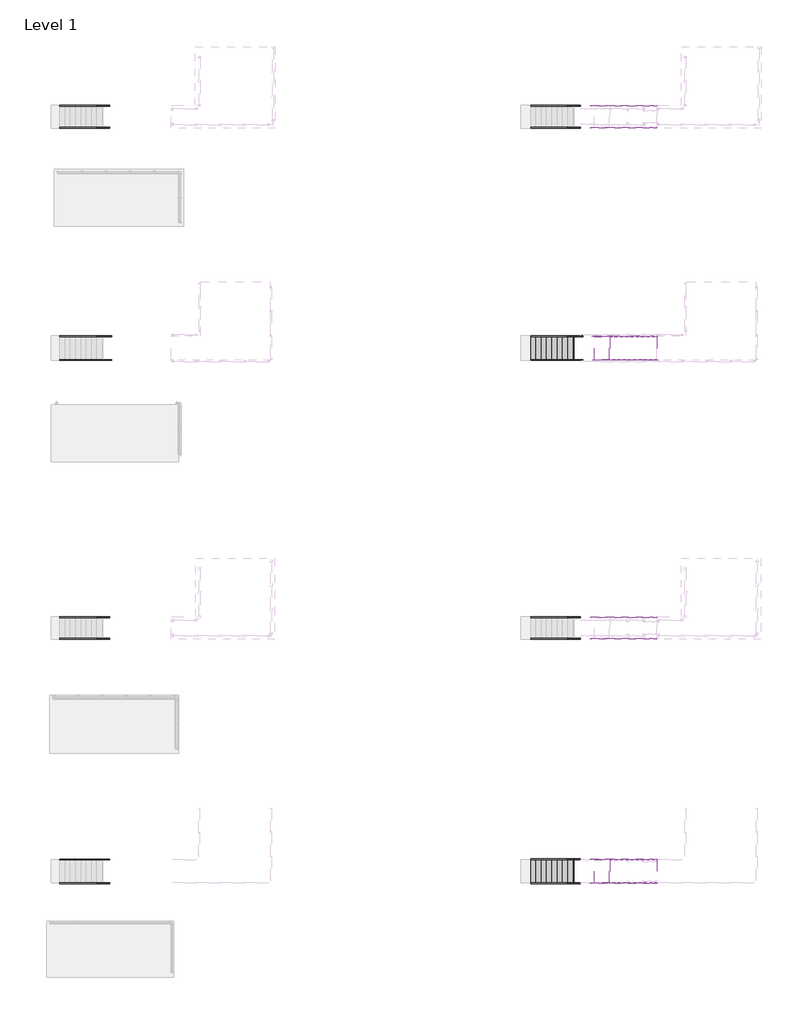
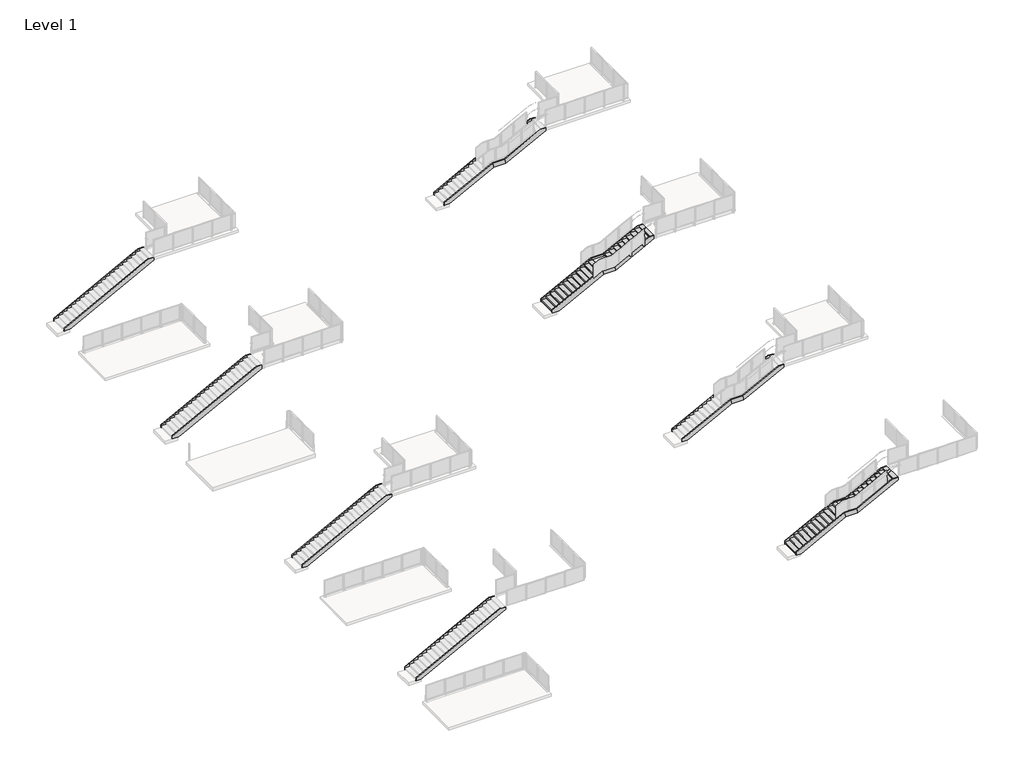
# One storey, part 37 of 37: 32 members, 4 stair flights, 2 slabs.
"""IFC4 building model written with IfcOpenShell, lengths in millimetres."""

from ifc_helpers import new_model, si_unit, frame, origin, place, context, project, spatial, polyline, outline, extrude, transform, mapped, element, save
from components import non_monolithic_landing_e9fda9be, non_monolithic_landing_5e3153e8, stair_flight_2a23c924, stair_flight_99da53d7, stair_flight_32776d90, stair_flight_a6610861

model = new_model("IFC4")

# Units and contexts
model_context = context("Model", 3, world=origin())
ifc_project = project(units=[si_unit("LENGTHUNIT", "METRE", prefix="MILLI")], contexts=[model_context])

# Site, building, storey
site = spatial("IfcSite", under=ifc_project)
building = spatial("IfcBuilding", under=site)
storey = spatial("IfcBuildingStorey", under=building, Name="Level 1", Elevation=0.0)

# Members
placement = place(None, origin())
element("IfcMember", 1, ObjectType="Stringer - Paint - 2\" Width", at=placement, inside=storey, context=model_context, shape_type="SweptSolid", body=[
    extrude(outline(polyline([(190.3114112, -38944.2813244), (0.0, -38944.2813244), (0.0, -38621.8954208), (2880.5268033, -33076.8813244), (3048.0, -33076.8813244), (3048.0, -33443.230791), (190.3114112, -38944.2813244)])), frame((0.0, 9475.3937722, 0.0), z_axis=(0.0, 1.0, 0.0), x_axis=(0.0, 0.0, 1.0)), (0.0, 0.0, 1.0), 50.8),
])
element("IfcMember", 2, ObjectType="Stringer - Paint - 2\" Width", at=placement, inside=storey, context=model_context, shape_type="SweptSolid", body=[
    extrude(outline(polyline([(190.3114112, -38944.2813244), (0.0, -38944.2813244), (0.0, -38621.8954208), (2880.5268033, -33076.8813244), (3048.0, -33076.8813244), (3048.0, -33443.230791), (190.3114112, -38944.2813244)])), frame((0.0, 8326.1937722, 0.0), z_axis=(0.0, 1.0, 0.0), x_axis=(0.0, 0.0, 1.0)), (0.0, 0.0, 1.0), 50.8),
])
element("IfcMember", 3, ObjectType="Stringer - Paint - 2\" Width", at=placement, inside=storey, context=model_context, shape_type="SweptSolid", body=[
    extrude(outline(polyline([(190.3114112, -14128.4813244), (0.0, -14128.4813244), (0.0, -13806.0954208), (1513.1142857, -10893.3504208), (1830.6142857, -10970.898291), (190.3114112, -14128.4813244)])), frame((0.0, 9475.3913722, 0.0), z_axis=(0.0, 1.0, 0.0), x_axis=(0.0, 0.0, 1.0)), (0.0, 0.0, 1.0), 50.8),
])
element("IfcMember", 4, ObjectType="Stringer - Paint - 2\" Width", at=placement, inside=storey, context=model_context, shape_type="SweptSolid", body=[
    extrude(outline(polyline([(190.3114112, -14128.4813244), (0.0, -14128.4813244), (0.0, -13806.0954208), (1513.1142857, -10893.3504208), (1830.6142857, -10970.898291), (190.3114112, -14128.4813244)])), frame((0.0, 8326.1937722, 0.0), z_axis=(0.0, 1.0, 0.0), x_axis=(0.0, 0.0, 1.0)), (0.0, 0.0, 1.0), 50.8),
])
element("IfcMember", 5, ObjectType="Stringer - Paint - 2\" Width", at=placement, inside=storey, context=model_context, shape_type="SweptSolid", body=[
    extrude(outline(polyline([(1830.6142857, -10183.498291), (1513.1142857, -10105.9504208), (2880.5268033, -7473.6813244), (3048.0, -7473.6813244), (3048.0, -7840.030791), (1830.6142857, -10183.498291)])), frame((0.0, 9475.3913722, 0.0), z_axis=(0.0, 1.0, 0.0), x_axis=(0.0, 0.0, 1.0)), (0.0, 0.0, 1.0), 50.8),
])
element("IfcMember", 6, ObjectType="Stringer - Paint - 2\" Width", at=placement, inside=storey, context=model_context, shape_type="SweptSolid", body=[
    extrude(outline(polyline([(1830.6142857, -10183.498291), (1513.1142857, -10105.9504208), (2880.5268033, -7473.6813244), (3048.0, -7473.6813244), (3048.0, -7840.030791), (1830.6142857, -10183.498291)])), frame((0.0, 8326.1937722, 0.0), z_axis=(0.0, 1.0, 0.0), x_axis=(0.0, 0.0, 1.0)), (0.0, 0.0, 1.0), 50.8),
])
element("IfcMember", 7, ObjectType="Stringer - Paint - 2\" Width", at=placement, inside=storey, context=model_context, shape_type="SweptSolid", body=[
    extrude(outline(polyline([(1513.1142857, -10105.9504208), (1830.6142857, -10183.498291), (1830.6142857, -10970.898291), (1513.1142857, -10893.3504208), (1513.1142857, -10105.9504208)])), frame((0.0, 9475.3913722, 0.0), z_axis=(0.0, 1.0, 0.0), x_axis=(0.0, 0.0, 1.0)), (0.0, 0.0, 1.0), 50.8),
])
element("IfcMember", 8, ObjectType="Stringer - Paint - 2\" Width", at=placement, inside=storey, context=model_context, shape_type="SweptSolid", body=[
    extrude(outline(polyline([(1830.6142857, -10970.898291), (1513.1142857, -10893.3504208), (1513.1142857, -10105.9504208), (1830.6142857, -10183.498291), (1830.6142857, -10970.898291)])), frame((0.0, 8326.1937722, 0.0), z_axis=(0.0, 1.0, 0.0), x_axis=(0.0, 0.0, 1.0)), (0.0, 0.0, 1.0), 50.8),
])
element("IfcMember", 9, ObjectType="Stringer - Paint - 2\" Width", at=placement, inside=storey, context=model_context, shape_type="SweptSolid", body=[
    extrude(outline(polyline([(190.3114112, -38944.2813244), (0.0, -38944.2813244), (0.0, -38511.6977615), (2823.281266, -33076.8813244), (3048.0, -33076.8813244), (3048.0, -33443.230791), (190.3114112, -38944.2813244)])), frame((0.0, -2662.1362112, 0.0), z_axis=(0.0, 1.0, 0.0), x_axis=(0.0, 0.0, 1.0)), (0.0, 0.0, 1.0), 50.8),
])
element("IfcMember", 10, ObjectType="Stringer - Paint - 2\" Width", at=placement, inside=storey, context=model_context, shape_type="SweptSolid", body=[
    extrude(outline(polyline([(190.3114112, -38944.2813244), (0.0, -38944.2813244), (0.0, -38511.6977615), (2823.281266, -33076.8813244), (3048.0, -33076.8813244), (3048.0, -33443.230791), (190.3114112, -38944.2813244)])), frame((0.0, -3912.9362112, 0.0), z_axis=(0.0, 1.0, 0.0), x_axis=(0.0, 0.0, 1.0)), (0.0, 0.0, 1.0), 50.8),
])
element("IfcMember", 11, ObjectType="Stringer - Paint - 2\" Width", at=placement, inside=storey, context=model_context, shape_type="SweptSolid", body=[
    extrude(outline(polyline([(190.3114112, -38944.2813244), (0.0, -38944.2813244), (0.0, -38621.8954208), (2880.5268033, -33076.8813244), (3048.0, -33076.8813244), (3048.0, -33443.230791), (190.3114112, -38944.2813244)])), frame((0.0, -17453.1554387, 0.0), z_axis=(0.0, 1.0, 0.0), x_axis=(0.0, 0.0, 1.0)), (0.0, 0.0, 1.0), 50.8),
])
element("IfcMember", 12, ObjectType="Stringer - Paint - 2\" Width", at=placement, inside=storey, context=model_context, shape_type="SweptSolid", body=[
    extrude(outline(polyline([(190.3114112, -38944.2813244), (0.0, -38944.2813244), (0.0, -38621.8954208), (2880.5268033, -33076.8813244), (3048.0, -33076.8813244), (3048.0, -33443.230791), (190.3114112, -38944.2813244)])), frame((0.0, -18602.3554387, 0.0), z_axis=(0.0, 1.0, 0.0), x_axis=(0.0, 0.0, 1.0)), (0.0, 0.0, 1.0), 50.8),
])
element("IfcMember", 13, ObjectType="Stringer - Paint - 2\" Width", at=placement, inside=storey, context=model_context, shape_type="SweptSolid", body=[
    extrude(outline(polyline([(190.3114112, -38944.2813244), (0.0, -38944.2813244), (0.0, -38621.8954208), (2880.5268033, -33076.8813244), (3048.0, -33076.8813244), (3048.0, -33443.230791), (190.3114112, -38944.2813244)])), frame((0.0, -30222.1775116, 0.0), z_axis=(0.0, 1.0, 0.0), x_axis=(0.0, 0.0, 1.0)), (0.0, 0.0, 1.0), 50.8),
])
element("IfcMember", 14, ObjectType="Stringer - Paint - 2\" Width", at=placement, inside=storey, context=model_context, shape_type="SweptSolid", body=[
    extrude(outline(polyline([(190.3114112, -38944.2813244), (0.0, -38944.2813244), (0.0, -38621.8954208), (2880.5268033, -33076.8813244), (3048.0, -33076.8813244), (3048.0, -33443.230791), (190.3114112, -38944.2813244)])), frame((0.0, -31472.9775116, 0.0), z_axis=(0.0, 1.0, 0.0), x_axis=(0.0, 0.0, 1.0)), (0.0, 0.0, 1.0), 50.8),
])
element("IfcMember", 15, ObjectType="Stringer - Paint - 2\" Width", at=placement, inside=storey, context=model_context, shape_type="SweptSolid", body=[
    extrude(outline(polyline([(190.3114112, -14128.4813244), (0.0, -14128.4813244), (0.0, -13806.0954208), (1513.1142857, -10893.3504208), (1830.6142857, -10970.898291), (190.3114112, -14128.4813244)])), frame((0.0, -17453.1578387, 0.0), z_axis=(0.0, 1.0, 0.0), x_axis=(0.0, 0.0, 1.0)), (0.0, 0.0, 1.0), 50.8),
])
element("IfcMember", 16, ObjectType="Stringer - Paint - 2\" Width", at=placement, inside=storey, context=model_context, shape_type="SweptSolid", body=[
    extrude(outline(polyline([(190.3114112, -14128.4813244), (0.0, -14128.4813244), (0.0, -13806.0954208), (1513.1142857, -10893.3504208), (1830.6142857, -10970.898291), (190.3114112, -14128.4813244)])), frame((0.0, -18602.3554387, 0.0), z_axis=(0.0, 1.0, 0.0), x_axis=(0.0, 0.0, 1.0)), (0.0, 0.0, 1.0), 50.8),
])
element("IfcMember", 17, ObjectType="Stringer - Paint - 2\" Width", at=placement, inside=storey, context=model_context, shape_type="SweptSolid", body=[
    extrude(outline(polyline([(1830.6142857, -10183.498291), (1513.1142857, -10105.9504208), (2880.5268033, -7473.6813244), (3048.0, -7473.6813244), (3048.0, -7840.030791), (1830.6142857, -10183.498291)])), frame((0.0, -17453.1578387, 0.0), z_axis=(0.0, 1.0, 0.0), x_axis=(0.0, 0.0, 1.0)), (0.0, 0.0, 1.0), 50.8),
])
element("IfcMember", 18, ObjectType="Stringer - Paint - 2\" Width", at=placement, inside=storey, context=model_context, shape_type="SweptSolid", body=[
    extrude(outline(polyline([(1830.6142857, -10183.498291), (1513.1142857, -10105.9504208), (2880.5268033, -7473.6813244), (3048.0, -7473.6813244), (3048.0, -7840.030791), (1830.6142857, -10183.498291)])), frame((0.0, -18602.3554387, 0.0), z_axis=(0.0, 1.0, 0.0), x_axis=(0.0, 0.0, 1.0)), (0.0, 0.0, 1.0), 50.8),
])
element("IfcMember", 19, ObjectType="Stringer - Paint - 2\" Width", at=placement, inside=storey, context=model_context, shape_type="SweptSolid", body=[
    extrude(outline(polyline([(1513.1142857, -10105.9504208), (1830.6142857, -10183.498291), (1830.6142857, -10970.898291), (1513.1142857, -10893.3504208), (1513.1142857, -10105.9504208)])), frame((0.0, -17453.1578387, 0.0), z_axis=(0.0, 1.0, 0.0), x_axis=(0.0, 0.0, 1.0)), (0.0, 0.0, 1.0), 50.8),
])
element("IfcMember", 20, ObjectType="Stringer - Paint - 2\" Width", at=placement, inside=storey, context=model_context, shape_type="SweptSolid", body=[
    extrude(outline(polyline([(1830.6142857, -10970.898291), (1513.1142857, -10893.3504208), (1513.1142857, -10105.9504208), (1830.6142857, -10183.498291), (1830.6142857, -10970.898291)])), frame((0.0, -18602.3554387, 0.0), z_axis=(0.0, 1.0, 0.0), x_axis=(0.0, 0.0, 1.0)), (0.0, 0.0, 1.0), 50.8),
])
element("IfcMember", 21, ObjectType="Stringer - Paint - 2\" Width", at=placement, inside=storey, context=model_context, shape_type="SweptSolid", body=[
    extrude(outline(polyline([(190.3114112, -14128.4813244), (0.0, -14128.4813244), (0.0, -13806.0954208), (1513.1142857, -10893.3504208), (1830.6142857, -10970.898291), (190.3114112, -14128.4813244)])), frame((0.0, -30217.3006776, 0.0), z_axis=(0.0, 1.0, 0.0), x_axis=(0.0, 0.0, 1.0)), (0.0, 0.0, 1.0), 50.8),
])
element("IfcMember", 22, ObjectType="Stringer - Paint - 2\" Width", at=placement, inside=storey, context=model_context, shape_type="SweptSolid", body=[
    extrude(outline(polyline([(190.3114112, -14128.4813244), (0.0, -14128.4813244), (0.0, -13806.0954208), (1513.1142857, -10893.3504208), (1830.6142857, -10970.898291), (190.3114112, -14128.4813244)])), frame((0.0, -31473.9861116, 0.0), z_axis=(0.0, 1.0, 0.0), x_axis=(0.0, 0.0, 1.0)), (0.0, 0.0, 1.0), 50.8),
])
element("IfcMember", 23, ObjectType="Stringer - Paint - 2\" Width", at=placement, inside=storey, context=model_context, shape_type="SweptSolid", body=[
    extrude(outline(polyline([(1830.6142857, -10183.498291), (1513.1142857, -10105.9504208), (2880.5268033, -7473.6813244), (3048.0, -7473.6813244), (3048.0, -7840.030791), (1830.6142857, -10183.498291)])), frame((0.0, -30217.3006776, 0.0), z_axis=(0.0, 1.0, 0.0), x_axis=(0.0, 0.0, 1.0)), (0.0, 0.0, 1.0), 50.8),
])
element("IfcMember", 24, ObjectType="Stringer - Paint - 2\" Width", at=placement, inside=storey, context=model_context, shape_type="SweptSolid", body=[
    extrude(outline(polyline([(1830.6142857, -10183.498291), (1513.1142857, -10105.9504208), (2880.5268033, -7473.6813244), (3048.0, -7473.6813244), (3048.0, -7840.030791), (1830.6142857, -10183.498291)])), frame((0.0, -31473.9861116, 0.0), z_axis=(0.0, 1.0, 0.0), x_axis=(0.0, 0.0, 1.0)), (0.0, 0.0, 1.0), 50.8),
])
element("IfcMember", 25, ObjectType="Stringer - Paint - 2\" Width", at=placement, inside=storey, context=model_context, shape_type="SweptSolid", body=[
    extrude(outline(polyline([(1513.1142857, -10105.9504208), (1830.6142857, -10183.498291), (1830.6142857, -10970.898291), (1513.1142857, -10893.3504208), (1513.1142857, -10105.9504208)])), frame((0.0, -30217.3006776, 0.0), z_axis=(0.0, 1.0, 0.0), x_axis=(0.0, 0.0, 1.0)), (0.0, 0.0, 1.0), 50.8),
])
element("IfcMember", 26, ObjectType="Stringer - Paint - 2\" Width", at=placement, inside=storey, context=model_context, shape_type="SweptSolid", body=[
    extrude(outline(polyline([(1830.6142857, -10970.898291), (1513.1142857, -10893.3504208), (1513.1142857, -10105.9504208), (1830.6142857, -10183.498291), (1830.6142857, -10970.898291)])), frame((0.0, -31473.9861116, 0.0), z_axis=(0.0, 1.0, 0.0), x_axis=(0.0, 0.0, 1.0)), (0.0, 0.0, 1.0), 50.8),
])
element("IfcMember", 27, ObjectType="Stringer - Paint - 2\" Width", at=placement, inside=storey, context=model_context, shape_type="SweptSolid", body=[
    extrude(outline(polyline([(190.3114112, -14128.4813244), (0.0, -14128.4813244), (0.0, -13695.8977615), (1513.1142857, -10783.1527615), (1881.4142857, -10873.108291), (190.3114112, -14128.4813244)])), frame((0.0, -2656.2507772, 0.0), z_axis=(0.0, 1.0, 0.0), x_axis=(0.0, 0.0, 1.0)), (0.0, 0.0, 1.0), 50.8),
])
element("IfcMember", 28, ObjectType="Stringer - Paint - 2\" Width", at=placement, inside=storey, context=model_context, shape_type="SweptSolid", body=[
    extrude(outline(polyline([(190.3114112, -14128.4813244), (0.0, -14128.4813244), (0.0, -13695.8977615), (1513.1142857, -10783.1527615), (1881.4142857, -10873.108291), (190.3114112, -14128.4813244)])), frame((0.0, -3912.9362112, 0.0), z_axis=(0.0, 1.0, 0.0), x_axis=(0.0, 0.0, 1.0)), (0.0, 0.0, 1.0), 50.8),
])
element("IfcMember", 29, ObjectType="Stringer - Paint - 2\" Width", at=placement, inside=storey, context=model_context, shape_type="SweptSolid", body=[
    extrude(outline(polyline([(1881.4142857, -10085.708291), (1513.1142857, -9995.7527615), (2823.281266, -7473.6813244), (3048.0, -7473.6813244), (3048.0, -7840.030791), (1881.4142857, -10085.708291)])), frame((0.0, -2656.2507772, 0.0), z_axis=(0.0, 1.0, 0.0), x_axis=(0.0, 0.0, 1.0)), (0.0, 0.0, 1.0), 50.8),
])
element("IfcMember", 30, ObjectType="Stringer - Paint - 2\" Width", at=placement, inside=storey, context=model_context, shape_type="SweptSolid", body=[
    extrude(outline(polyline([(1881.4142857, -10085.708291), (1513.1142857, -9995.7527615), (2823.281266, -7473.6813244), (3048.0, -7473.6813244), (3048.0, -7840.030791), (1881.4142857, -10085.708291)])), frame((0.0, -3912.9362112, 0.0), z_axis=(0.0, 1.0, 0.0), x_axis=(0.0, 0.0, 1.0)), (0.0, 0.0, 1.0), 50.8),
])
element("IfcMember", 31, ObjectType="Stringer - Paint - 2\" Width", at=placement, inside=storey, context=model_context, shape_type="SweptSolid", body=[
    extrude(outline(polyline([(1513.1142857, -9995.7527615), (1881.4142857, -10085.708291), (1881.4142857, -10873.108291), (1513.1142857, -10783.1527615), (1513.1142857, -9995.7527615)])), frame((0.0, -2656.2507772, 0.0), z_axis=(0.0, 1.0, 0.0), x_axis=(0.0, 0.0, 1.0)), (0.0, 0.0, 1.0), 50.8),
])
element("IfcMember", 32, ObjectType="Stringer - Paint - 2\" Width", at=placement, inside=storey, context=model_context, shape_type="SweptSolid", body=[
    extrude(outline(polyline([(1881.4142857, -10873.108291), (1513.1142857, -10783.1527615), (1513.1142857, -9995.7527615), (1881.4142857, -10085.708291), (1881.4142857, -10873.108291)])), frame((0.0, -3912.9362112, 0.0), z_axis=(0.0, 1.0, 0.0), x_axis=(0.0, 0.0, 1.0)), (0.0, 0.0, 1.0), 50.8),
])

# Slabs
non_monolithic_landing_shape = non_monolithic_landing_e9fda9be(model_context)
element("IfcSlab", 33, ObjectType="Non-Monolithic Landing", at=placement, inside=storey, context=model_context, shape_type="MappedRepresentation", body=[
    mapped(non_monolithic_landing_shape, transform((0.0, 0.0, 0.0), x_axis=(1.0, 0.0, 0.0), y_axis=(0.0, 1.0, 0.0), z_axis=(0.0, 0.0, 1.0))),
])
non_monolithic_landing_2_shape = non_monolithic_landing_5e3153e8(model_context)
element("IfcSlab", 34, ObjectType="Non-Monolithic Landing", at=placement, inside=storey, context=model_context, shape_type="MappedRepresentation", body=[
    mapped(non_monolithic_landing_2_shape, transform((0.0, 0.0, 0.0), x_axis=(1.0, 0.0, 0.0), y_axis=(0.0, 1.0, 0.0), z_axis=(0.0, 0.0, 1.0))),
])

# Stair flights
stair_flight_shape = stair_flight_2a23c924(model_context)
element("IfcStairFlight", 35, ObjectType="Concrete Steps with 2\" Tread 1\" Nosing 1/4\" Riser", at=placement, inside=storey, context=model_context, shape_type="MappedRepresentation", body=[
    mapped(stair_flight_shape, transform((0.0, 0.0, 0.0), x_axis=(1.0, 0.0, 0.0), y_axis=(0.0, 1.0, 0.0), z_axis=(0.0, 0.0, 1.0))),
])
stair_flight_2_shape = stair_flight_99da53d7(model_context)
element("IfcStairFlight", 36, ObjectType="Concrete Steps with 2\" Tread 1\" Nosing 1/4\" Riser", at=placement, inside=storey, context=model_context, shape_type="MappedRepresentation", body=[
    mapped(stair_flight_2_shape, transform((0.0, 0.0, 0.0), x_axis=(1.0, 0.0, 0.0), y_axis=(0.0, 1.0, 0.0), z_axis=(0.0, 0.0, 1.0))),
])
stair_flight_3_shape = stair_flight_32776d90(model_context)
element("IfcStairFlight", 37, ObjectType="Concrete Steps with 2\" Tread 1\" Nosing 1/4\" Riser", at=placement, inside=storey, context=model_context, shape_type="MappedRepresentation", body=[
    mapped(stair_flight_3_shape, transform((0.0, 0.0, 0.0), x_axis=(1.0, 0.0, 0.0), y_axis=(0.0, 1.0, 0.0), z_axis=(0.0, 0.0, 1.0))),
])
stair_flight_4_shape = stair_flight_a6610861(model_context)
element("IfcStairFlight", 38, ObjectType="Concrete Steps with 2\" Tread 1\" Nosing 1/4\" Riser", at=placement, inside=storey, context=model_context, shape_type="MappedRepresentation", body=[
    mapped(stair_flight_4_shape, transform((0.0, 0.0, 0.0), x_axis=(1.0, 0.0, 0.0), y_axis=(0.0, 1.0, 0.0), z_axis=(0.0, 0.0, 1.0))),
])

save(model, "model.ifc")
